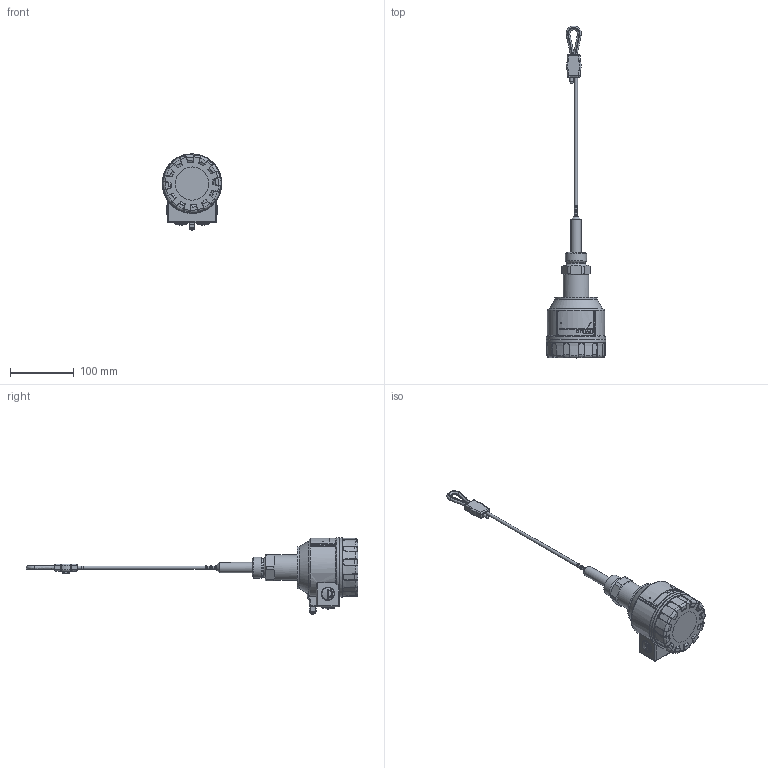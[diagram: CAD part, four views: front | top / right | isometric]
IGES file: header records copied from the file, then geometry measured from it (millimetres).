
Global section: file name: CT_Mű_1 col_hossz kötél,22; native system: HAutodesk Inventor 2015; preprocessor: unknown; author: aantal; date: 20150626.083852; units: millimetre
Bounding box: 92.99 x 519.1 x 119.25 mm (x, y, z)
Volume: 804552.6 mm3; surface area: 98061.5 mm2
Topology: 13 solids, 13 shells, 1357 faces, 3384 edges, 2090 vertices
Faces by surface type: bspline 1357
